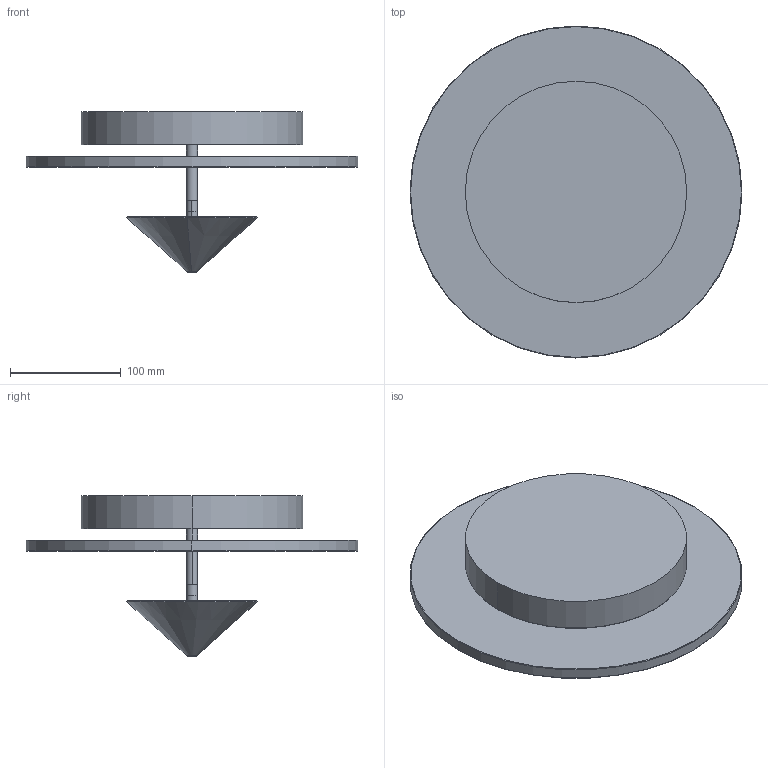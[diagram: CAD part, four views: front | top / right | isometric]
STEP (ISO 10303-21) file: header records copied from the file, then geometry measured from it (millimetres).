
FILE_DESCRIPTION (( 'STEP AP214' ), '1' );
FILE_NAME ('APLIQUE ANZA.STEP', '2024-10-14T15:23:50', ( '' ), ( '' ), 'SwSTEP 2.0', 'SolidWorks 2018', '' );
FILE_SCHEMA (( 'AUTOMOTIVE_DESIGN' ));
Length unit declared in the file: millimetre
Products named in the file (3): estructura aplique; APLIQUE ANZA; tulipa APLIQUE
Assembly tree (2 placements, depth 2):
  APLIQUE ANZA
    estructura aplique
    tulipa APLIQUE
Bounding box: 300 x 300 x 145 mm (x, y, z)
Volume: 1686099 mm3; surface area: 280538.8 mm2
Topology: 6 solids, 6 shells, 45 faces, 80 edges, 50 vertices
Faces by surface type: plane 15, cylinder 14, torus 10, cone 6
Entity records: 1264 total; most frequent: DIRECTION 240, CARTESIAN_POINT 180, ORIENTED_EDGE 160, AXIS2_PLACEMENT_3D 110, EDGE_CURVE 80, CIRCLE 60, EDGE_LOOP 50, VERTEX_POINT 50
